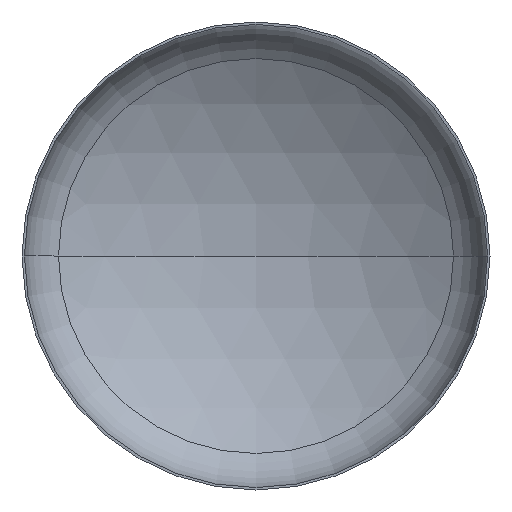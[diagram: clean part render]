
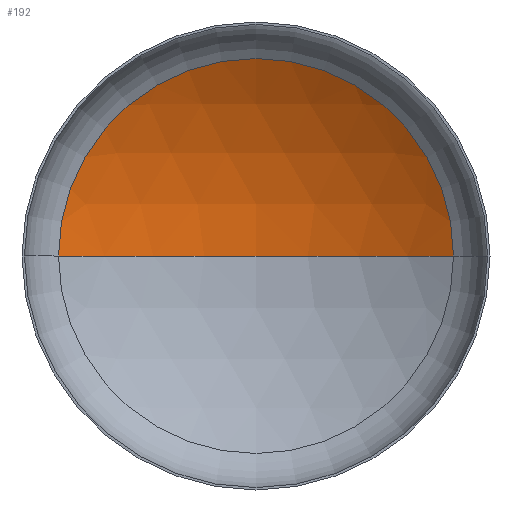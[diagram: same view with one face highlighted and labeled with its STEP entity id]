
A CAD part, front view. The second image highlights one B-rep face of the part: STEP entity #192.
In plain terms, the highlighted spherical face has radius 4800 mm.
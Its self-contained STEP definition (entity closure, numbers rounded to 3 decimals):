
#1 = CARTESIAN_POINT ( 'NONE',  ( 0., -3192.065, 0. ) ) ;
#3 = DIRECTION ( 'NONE',  ( 1., 0., 0. ) ) ;
#33 = VERTEX_POINT ( 'NONE', #288 ) ;
#42 = CIRCLE ( 'NONE', #331, 2531.923 ) ;
#55 = ORIENTED_EDGE ( 'NONE', *, *, #178, .F. ) ;
#86 = CARTESIAN_POINT ( 'NONE',  ( 0., -3192.065, 0. ) ) ;
#87 = CARTESIAN_POINT ( 'NONE',  ( 2531.923, 885.848, 0. ) ) ;
#97 = DIRECTION ( 'NONE',  ( 0., 0., -1. ) ) ;
#115 = DIRECTION ( 'NONE',  ( -1., 0., 0. ) ) ;
#123 = DIRECTION ( 'NONE',  ( 0., 0., 1. ) ) ;
#136 = CARTESIAN_POINT ( 'NONE',  ( 0., 885.848, 0. ) ) ;
#137 = DIRECTION ( 'NONE',  ( 0., -1., 0. ) ) ;
#138 = FACE_OUTER_BOUND ( 'NONE', #157, .T. ) ;
#154 = CARTESIAN_POINT ( 'NONE',  ( 0., -3192.065, 0. ) ) ;
#156 = CIRCLE ( 'NONE', #207, 4800. ) ;
#157 = EDGE_LOOP ( 'NONE', ( #55, #339, #397 ) ) ;
#164 = CARTESIAN_POINT ( 'NONE',  ( 0., 1607.935, 0. ) ) ;
#178 = EDGE_CURVE ( 'NONE', #369, #33, #156, .T. ) ;
#186 = DIRECTION ( 'NONE',  ( 1., 0., 0. ) ) ;
#192 = ADVANCED_FACE ( 'NONE', ( #138 ), #382, .F. ) ;
#201 = EDGE_CURVE ( 'NONE', #369, #273, #216, .T. ) ;
#207 = AXIS2_PLACEMENT_3D ( 'NONE', #86, #123, #3 ) ;
#215 = EDGE_CURVE ( 'NONE', #273, #33, #42, .T. ) ;
#216 = CIRCLE ( 'NONE', #295, 4800. ) ;
#273 = VERTEX_POINT ( 'NONE', #87 ) ;
#274 = DIRECTION ( 'NONE',  ( -1., 0., 0. ) ) ;
#288 = CARTESIAN_POINT ( 'NONE',  ( -2531.923, 885.848, 0. ) ) ;
#295 = AXIS2_PLACEMENT_3D ( 'NONE', #154, #97, #115 ) ;
#315 = AXIS2_PLACEMENT_3D ( 'NONE', #1, #396, #274 ) ;
#331 = AXIS2_PLACEMENT_3D ( 'NONE', #136, #137, #186 ) ;
#339 = ORIENTED_EDGE ( 'NONE', *, *, #201, .T. ) ;
#369 = VERTEX_POINT ( 'NONE', #164 ) ;
#382 = SPHERICAL_SURFACE ( 'NONE', #315, 4800. ) ;
#396 = DIRECTION ( 'NONE',  ( 0., 0., -1. ) ) ;
#397 = ORIENTED_EDGE ( 'NONE', *, *, #215, .T. ) ;
